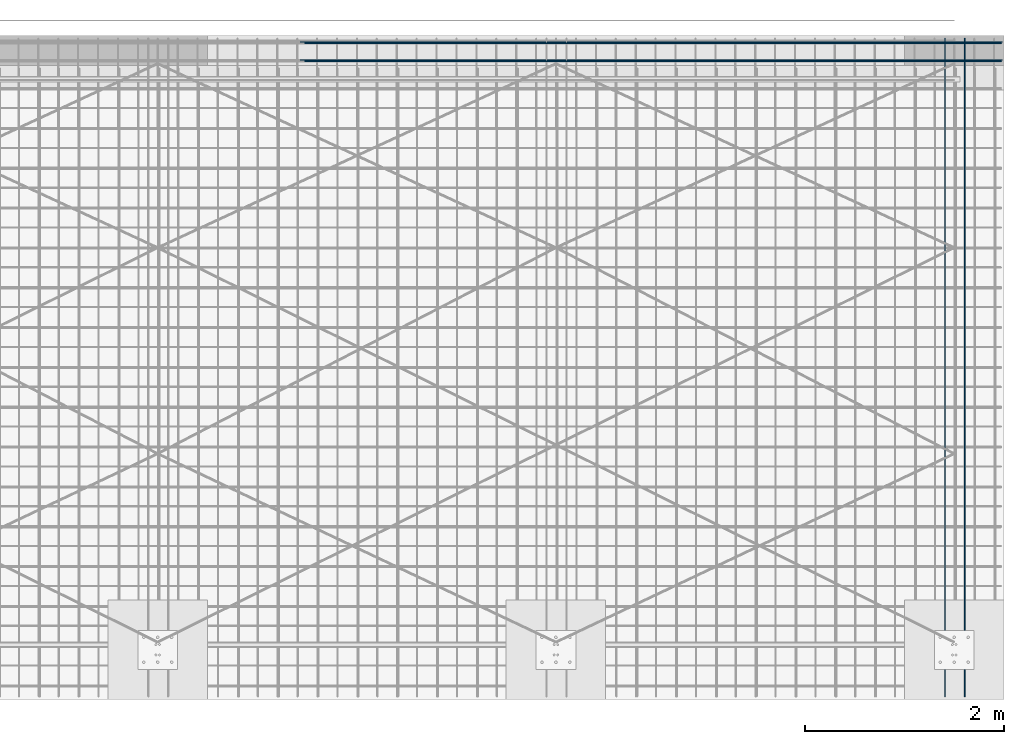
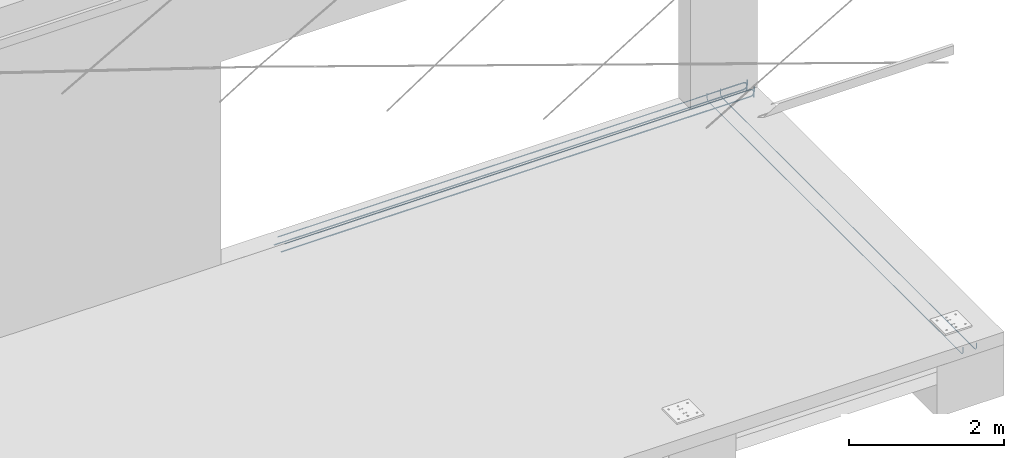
# One storey, part 7 of 8: 3 reinforcing bars.
"""IFC4X3_ADD2 building model written with IfcOpenShell, lengths in millimetres."""

from ifc_helpers import new_model, entity, si_unit, converted_unit, derived_unit, direction, frame, origin, place, context, subcontext, project, spatial, material, type_object, element, save


model = new_model("IFC4X3_ADD2")

# Units and contexts
model_context = context("Model", 3, precision=0.01, world=origin(), true_north=direction((6.123233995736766e-17, 1.0)))
plan_context = context("Plan", 3, precision=0.01, world=origin(), true_north=direction((6.123233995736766e-17, 1.0)))
body_context = subcontext(model_context, "Body", "Model", "MODEL_VIEW")
ifc_project = project(units=[si_unit("LENGTHUNIT", "METRE", prefix="MILLI"), converted_unit("PLANEANGLEUNIT", "DEGREE", entity("IfcPlaneAngleMeasure", 0.017453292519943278), si_unit("PLANEANGLEUNIT", "RADIAN"), dimensions=[0, 0, 0, 0, 0, 0, 0]), si_unit("AREAUNIT", "SQUARE_METRE"), si_unit("VOLUMEUNIT", "CUBIC_METRE"), derived_unit("THERMALTRANSMITTANCEUNIT", [(si_unit("MASSUNIT", "GRAM", prefix="KILO"), 1), (si_unit("THERMODYNAMICTEMPERATUREUNIT", "KELVIN"), -1), (si_unit("TIMEUNIT", "SECOND"), -3)]), derived_unit("USERDEFINED", [(si_unit("MASSUNIT", "GRAM", prefix="KILO"), 1), (si_unit("THERMODYNAMICTEMPERATUREUNIT", "KELVIN"), -1), (si_unit("TIMEUNIT", "SECOND"), -2)]), derived_unit("THERMALRESISTANCEUNIT", [(si_unit("MASSUNIT", "GRAM", prefix="KILO"), -1), (si_unit("TIMEUNIT", "SECOND"), 3), (si_unit("THERMODYNAMICTEMPERATUREUNIT", "KELVIN"), 1)]), si_unit("MASSUNIT", "GRAM", prefix="KILO"), derived_unit("MOMENTOFINERTIAUNIT", [(si_unit("LENGTHUNIT", "METRE"), 4)]), derived_unit("LINEARFORCEUNIT", [(si_unit("MASSUNIT", "GRAM", prefix="KILO"), 1), (si_unit("TIMEUNIT", "SECOND"), -2)]), derived_unit("WARPINGCONSTANTUNIT", [(si_unit("LENGTHUNIT", "METRE"), 6)]), si_unit("PRESSUREUNIT", "PASCAL"), derived_unit("MASSDENSITYUNIT", [(si_unit("MASSUNIT", "GRAM", prefix="KILO"), 1), (si_unit("LENGTHUNIT", "METRE"), -3)]), derived_unit("MODULUSOFELASTICITYUNIT", [(si_unit("MASSUNIT", "GRAM", prefix="KILO"), 1), (si_unit("TIMEUNIT", "SECOND"), -2), (si_unit("LENGTHUNIT", "METRE"), -1)]), derived_unit("THERMALEXPANSIONCOEFFICIENTUNIT", [(si_unit("THERMODYNAMICTEMPERATUREUNIT", "KELVIN"), -1)]), derived_unit("VAPORPERMEABILITYUNIT", [(si_unit("LENGTHUNIT", "METRE"), -1), (si_unit("TIMEUNIT", "SECOND"), 1)]), derived_unit("USERDEFINED", [(si_unit("MASSUNIT", "GRAM", prefix="KILO"), 1), (si_unit("TIMEUNIT", "SECOND"), -3), (si_unit("LENGTHUNIT", "METRE"), 3), (si_unit("ELECTRICCURRENTUNIT", "AMPERE"), -2)]), derived_unit("SPECIFICHEATCAPACITYUNIT", [(si_unit("THERMODYNAMICTEMPERATUREUNIT", "KELVIN"), -1), (si_unit("TIMEUNIT", "SECOND"), -2), (si_unit("LENGTHUNIT", "METRE"), 2)]), derived_unit("THERMALCONDUCTANCEUNIT", [(si_unit("MASSUNIT", "GRAM", prefix="KILO"), 1), (si_unit("THERMODYNAMICTEMPERATUREUNIT", "KELVIN"), -1), (si_unit("TIMEUNIT", "SECOND"), -3), (si_unit("LENGTHUNIT", "METRE"), 1)])], contexts=[model_context, plan_context])

# Site, building, storey
site_placement = place(None, origin())
site = spatial("IfcSite", under=ifc_project, at=site_placement, Name="Default", CompositionType="ELEMENT")
building_placement = place(site_placement, origin())
building = spatial("IfcBuilding", under=site, at=building_placement, Name="Complex structure", CompositionType="ELEMENT")
storey_placement = place(building_placement, frame((0.0, 0.0, -400.0)))
storey = spatial("IfcBuildingStorey", under=building, at=storey_placement, Name="Level -02", CompositionType="ELEMENT", Elevation=-400.0)

# Reinforcing bars
ifc_material = material(Name="Steel Rebar - B500A, B or C", Category="Unassigned")
reinforcing_bar_type_1 = type_object("IfcReinforcingBarType", Name="Rebar Bar:12mm", PredefinedType="NOTDEFINED")
reinforcing_bar_1_placement = place(storey_placement, origin())
ifc_direction_1 = entity("IfcDirection", [1.0, 0.0, 0.0])
ifc_direction_2 = entity("IfcDirection", [1.0, 0.0, 0.0])
element("IfcReinforcingBar", 1, at=reinforcing_bar_1_placement, inside=storey, type_object=reinforcing_bar_type_1, material=ifc_material, Name="Rebar Bar:12mm : Shape 21", ObjectType="Rebar Bar:12mm", context=body_context, shape_type="AdvancedSweptSolid", body=[
    entity("IfcSweptDiskSolid", entity("IfcCompositeCurve", [entity("IfcCompositeCurveSegment", "CONTINUOUS", True, entity("IfcPolyline", [entity("IfcCartesianPoint", [-1239.221550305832, -1751.866703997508, 145.0]), entity("IfcCartesianPoint", [-1239.221550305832, -1751.866703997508, 77.0])])), entity("IfcCompositeCurveSegment", "CONTINUOUS", True, entity("IfcTrimmedCurve", entity("IfcCircle", entity("IfcAxis2Placement3D", entity("IfcCartesianPoint", [-1239.221550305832, -1705.8667039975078, 77.0]), ifc_direction_1, entity("IfcDirection", [0.0, 0.0, -1.0])), 46.0), [entity("IfcParameterValue", 269.9999999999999)], [entity("IfcParameterValue", 360.00000000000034)], True, "PARAMETER")), entity("IfcCompositeCurveSegment", "CONTINUOUS", True, entity("IfcPolyline", [entity("IfcCartesianPoint", [-1239.221550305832, -1705.8667039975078, 31.0]), entity("IfcCartesianPoint", [-1239.221550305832, 4811.133296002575, 31.0])])), entity("IfcCompositeCurveSegment", "CONTINUOUS", True, entity("IfcTrimmedCurve", entity("IfcCircle", entity("IfcAxis2Placement3D", entity("IfcCartesianPoint", [-1239.221550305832, 4811.133296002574, 77.0]), ifc_direction_1, entity("IfcDirection", [0.0, 1.0, 0.0])), 46.0), [entity("IfcParameterValue", 269.9999999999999)], [entity("IfcParameterValue", 360.00000000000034)], True, "PARAMETER")), entity("IfcCompositeCurveSegment", "CONTINUOUS", True, entity("IfcPolyline", [entity("IfcCartesianPoint", [-1239.221550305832, 4857.133296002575, 77.0]), entity("IfcCartesianPoint", [-1239.221550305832, 4857.133296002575, 145.0])]))], False), 6.0, None, 0.0, 183.00000000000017),
    entity("IfcSweptDiskSolid", entity("IfcCompositeCurve", [entity("IfcCompositeCurveSegment", "CONTINUOUS", True, entity("IfcPolyline", [entity("IfcCartesianPoint", [-1039.221550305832, -1751.866703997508, 145.0]), entity("IfcCartesianPoint", [-1039.221550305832, -1751.866703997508, 77.0])])), entity("IfcCompositeCurveSegment", "CONTINUOUS", True, entity("IfcTrimmedCurve", entity("IfcCircle", entity("IfcAxis2Placement3D", entity("IfcCartesianPoint", [-1039.221550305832, -1705.8667039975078, 77.0]), ifc_direction_2, entity("IfcDirection", [0.0, 0.0, -1.0])), 46.0), [entity("IfcParameterValue", 269.9999999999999)], [entity("IfcParameterValue", 360.00000000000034)], True, "PARAMETER")), entity("IfcCompositeCurveSegment", "CONTINUOUS", True, entity("IfcPolyline", [entity("IfcCartesianPoint", [-1039.221550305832, -1705.8667039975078, 31.0]), entity("IfcCartesianPoint", [-1039.221550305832, 4811.133296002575, 31.0])])), entity("IfcCompositeCurveSegment", "CONTINUOUS", True, entity("IfcTrimmedCurve", entity("IfcCircle", entity("IfcAxis2Placement3D", entity("IfcCartesianPoint", [-1039.221550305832, 4811.133296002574, 77.0]), ifc_direction_2, entity("IfcDirection", [0.0, 1.0, 0.0])), 46.0), [entity("IfcParameterValue", 269.9999999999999)], [entity("IfcParameterValue", 360.00000000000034)], True, "PARAMETER")), entity("IfcCompositeCurveSegment", "CONTINUOUS", True, entity("IfcPolyline", [entity("IfcCartesianPoint", [-1039.221550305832, 4857.133296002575, 77.0]), entity("IfcCartesianPoint", [-1039.221550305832, 4857.133296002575, 145.0])]))], False), 6.0, None, 0.0, 183.00000000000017),
])
reinforcing_bar_2_placement = place(storey_placement, origin())
element("IfcReinforcingBar", 2, at=reinforcing_bar_2_placement, inside=storey, type_object=reinforcing_bar_type_1, material=ifc_material, Name="Rebar Bar:12mm : Shape 12", ObjectType="Rebar Bar:12mm", context=body_context, shape_type="AdvancedSweptSolid", body=[
    entity("IfcSweptDiskSolid", entity("IfcCompositeCurve", [entity("IfcCompositeCurveSegment", "CONTINUOUS", True, entity("IfcPolyline", [entity("IfcCartesianPoint", [-664.2215503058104, 4640.133296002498, 175.0]), entity("IfcCartesianPoint", [-664.2215503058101, 4640.133296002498, 99.0])])), entity("IfcCompositeCurveSegment", "CONTINUOUS", True, entity("IfcTrimmedCurve", entity("IfcCircle", entity("IfcAxis2Placement3D", entity("IfcCartesianPoint", [-720.2215503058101, 4640.133296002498, 99.0]), entity("IfcDirection", [0.0, 1.0, 0.0]), entity("IfcDirection", [0.0, 0.0, -1.0])), 56.0), [entity("IfcParameterValue", 269.9999999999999)], [entity("IfcParameterValue", 360.00000000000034)], True, "PARAMETER")), entity("IfcCompositeCurveSegment", "CONTINUOUS", True, entity("IfcPolyline", [entity("IfcCartesianPoint", [-720.2215503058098, 4640.133296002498, 43.0]), entity("IfcCartesianPoint", [-7717.221550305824, 4640.133296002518, 43.0])]))], False), 6.0, None, 0.0, 92.00000000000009),
    entity("IfcSweptDiskSolid", entity("IfcCompositeCurve", [entity("IfcCompositeCurveSegment", "CONTINUOUS", True, entity("IfcPolyline", [entity("IfcCartesianPoint", [-664.2215503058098, 4820.133296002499, 175.0]), entity("IfcCartesianPoint", [-664.2215503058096, 4820.133296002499, 99.0])])), entity("IfcCompositeCurveSegment", "CONTINUOUS", True, entity("IfcTrimmedCurve", entity("IfcCircle", entity("IfcAxis2Placement3D", entity("IfcCartesianPoint", [-720.2215503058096, 4820.133296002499, 99.0]), entity("IfcDirection", [0.0, 1.0, 0.0]), entity("IfcDirection", [0.0, 0.0, -1.0])), 56.0), [entity("IfcParameterValue", 269.9999999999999)], [entity("IfcParameterValue", 360.00000000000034)], True, "PARAMETER")), entity("IfcCompositeCurveSegment", "CONTINUOUS", True, entity("IfcPolyline", [entity("IfcCartesianPoint", [-720.2215503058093, 4820.133296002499, 43.0]), entity("IfcCartesianPoint", [-7717.221550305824, 4820.133296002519, 43.0])]))], False), 6.0, None, 0.0, 92.00000000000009),
])
reinforcing_bar_type_2 = type_object("IfcReinforcingBarType", Name="Rebar Bar:10mm", PredefinedType="NOTDEFINED")
reinforcing_bar_3_placement = place(storey_placement, origin())
element("IfcReinforcingBar", 3, at=reinforcing_bar_3_placement, inside=storey, type_object=reinforcing_bar_type_2, material=ifc_material, Name="Rebar Bar:10mm : Shape 12", ObjectType="Rebar Bar:10mm", context=body_context, shape_type="AdvancedSweptSolid", body=[
    entity("IfcSweptDiskSolid", entity("IfcCompositeCurve", [entity("IfcCompositeCurveSegment", "CONTINUOUS", True, entity("IfcPolyline", [entity("IfcCartesianPoint", [-7670.221550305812, 4629.1332960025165, 160.0]), entity("IfcCartesianPoint", [-730.2215503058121, 4629.1332960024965, 160.0])])), entity("IfcCompositeCurveSegment", "CONTINUOUS", True, entity("IfcTrimmedCurve", entity("IfcCircle", entity("IfcAxis2Placement3D", entity("IfcCartesianPoint", [-730.2215503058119, 4629.1332960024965, 105.0]), entity("IfcDirection", [0.0, 1.0, 0.0]), entity("IfcDirection", [1.0, 0.0, 0.0])), 55.0), [entity("IfcParameterValue", 269.9999999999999)], [entity("IfcParameterValue", 360.00000000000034)], True, "PARAMETER")), entity("IfcCompositeCurveSegment", "CONTINUOUS", True, entity("IfcPolyline", [entity("IfcCartesianPoint", [-675.2215503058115, 4629.1332960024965, 105.0]), entity("IfcCartesianPoint", [-675.2215503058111, 4629.1332960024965, 25.0])]))], False), 5.0, None, 0.0, 92.00000000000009),
    entity("IfcSweptDiskSolid", entity("IfcCompositeCurve", [entity("IfcCompositeCurveSegment", "CONTINUOUS", True, entity("IfcPolyline", [entity("IfcCartesianPoint", [-7670.221550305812, 4809.1332960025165, 160.0]), entity("IfcCartesianPoint", [-730.2215503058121, 4809.1332960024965, 160.0])])), entity("IfcCompositeCurveSegment", "CONTINUOUS", True, entity("IfcTrimmedCurve", entity("IfcCircle", entity("IfcAxis2Placement3D", entity("IfcCartesianPoint", [-730.2215503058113, 4809.1332960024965, 105.0]), entity("IfcDirection", [0.0, 1.0, 0.0]), entity("IfcDirection", [1.0, 0.0, 0.0])), 55.0), [entity("IfcParameterValue", 269.9999999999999)], [entity("IfcParameterValue", 360.00000000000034)], True, "PARAMETER")), entity("IfcCompositeCurveSegment", "CONTINUOUS", True, entity("IfcPolyline", [entity("IfcCartesianPoint", [-675.221550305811, 4809.1332960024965, 105.0]), entity("IfcCartesianPoint", [-675.2215503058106, 4809.1332960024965, 25.0])]))], False), 5.0, None, 0.0, 92.00000000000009),
])

save(model, "model.ifc")
